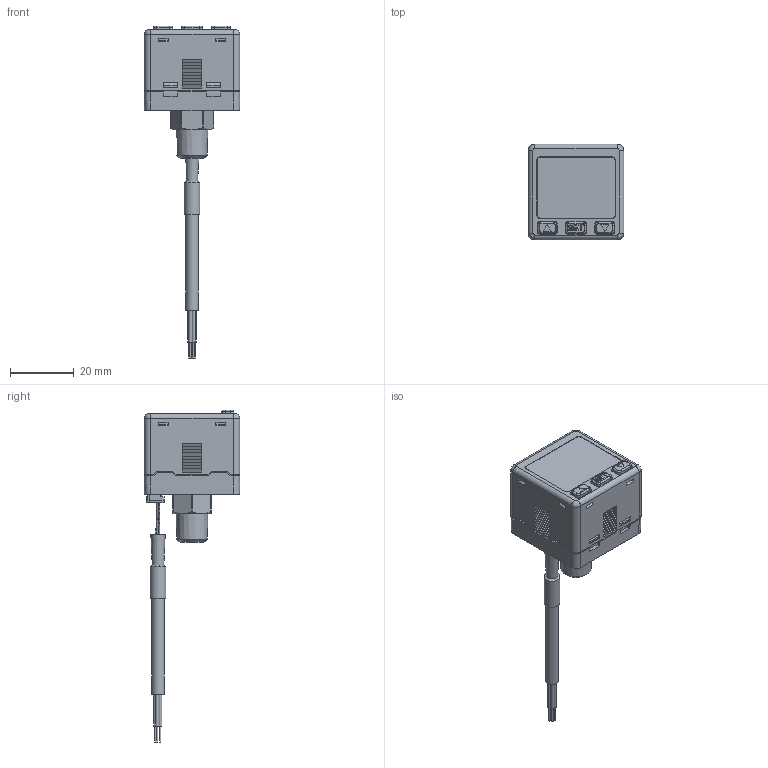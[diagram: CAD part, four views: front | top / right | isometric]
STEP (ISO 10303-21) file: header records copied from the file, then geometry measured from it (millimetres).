
FILE_DESCRIPTION(('STEP AP203'),'1');
FILE_NAME('-F1_3D.stp','2024-12-11T00:13:14',(' '),(' '),'Spatial InterOp 3D',' ',' ');
FILE_SCHEMA(('CONFIG_CONTROL_DESIGN'));
Length unit declared in the file: millimetre
Products named in the file (1): 1
Bounding box: 30.03 x 30 x 104.05 mm (x, y, z)
Volume: 24047.4 mm3; surface area: 8109.5 mm2
Topology: 1 solids, 1 shells, 800 faces, 2032 edges, 1283 vertices
Faces by surface type: plane 653, cylinder 84, bspline 26, cone 23, torus 13, sphere 1
Full cylindrical faces by diameter (mm): 0.4 x5, 1 x3, 1.1 x1, 3 x1, 3.4 x1, 4 x1, 4.2 x1, 4.6 x2, 5 x1, 5.4 x1, 7.2 x1
Entity records: 24517 total; most frequent: CARTESIAN_POINT 5508, ORIENTED_EDGE 3994, DIRECTION 3649, EDGE_CURVE 1997, LINE 1695, VECTOR 1695, VERTEX_POINT 1274, AXIS2_PLACEMENT_3D 977
